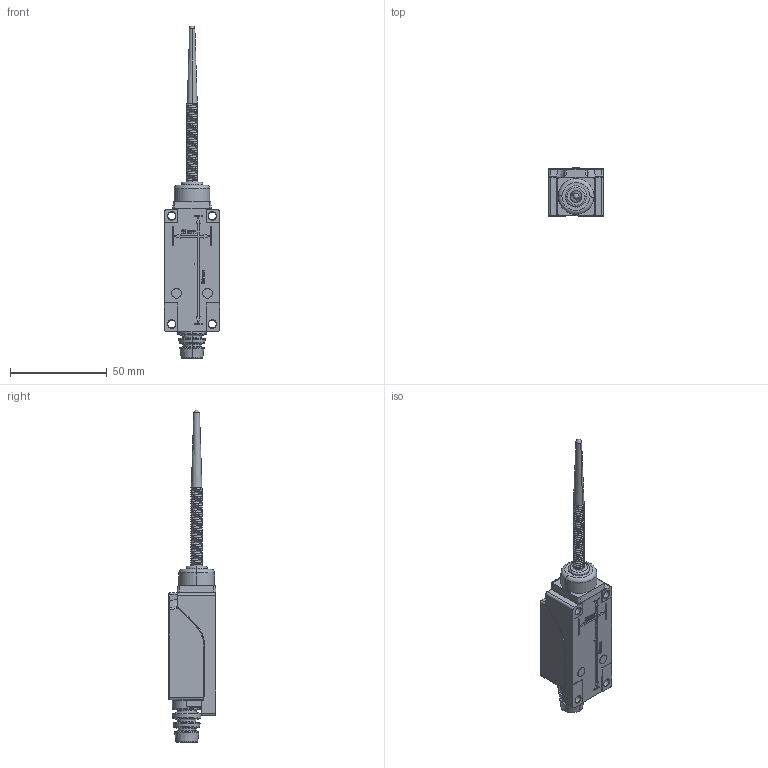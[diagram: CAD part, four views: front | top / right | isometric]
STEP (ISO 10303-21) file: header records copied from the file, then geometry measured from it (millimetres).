
FILE_DESCRIPTION((''),'2;1');
FILE_NAME('ALS1-M11_S3_ASM','2019-02-20T15:27:17',('1'),(''),'CREO PARAMETRIC BY PTC INC, 2016510','CREO PARAMETRIC BY PTC INC, 2016510','');
FILE_SCHEMA(('CONFIG_CONTROL_DESIGN'));
Products named in the file (1): ALS1-M11_S3_ASM
Bounding box: 28.5 x 24.8 x 171.79 mm (x, y, z)
Volume: 13202.2 mm3; surface area: 26322.2 mm2
Topology: 3 solids, 15 shells, 1247 faces, 3278 edges, 2084 vertices
Faces by surface type: plane 506, cylinder 396, torus 118, cone 82, extrusion 61, bspline 55, sphere 29
Entity records: 114401 total; most frequent: CARTESIAN_POINT 84118, ORIENTED_EDGE 6455, DIRECTION 6088, EDGE_CURVE 3250, AXIS2_PLACEMENT_3D 2189, VERTEX_POINT 2084, VECTOR 1710, LINE 1649
